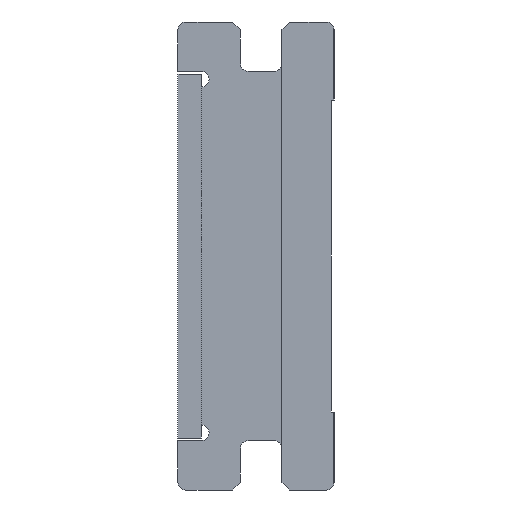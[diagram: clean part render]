
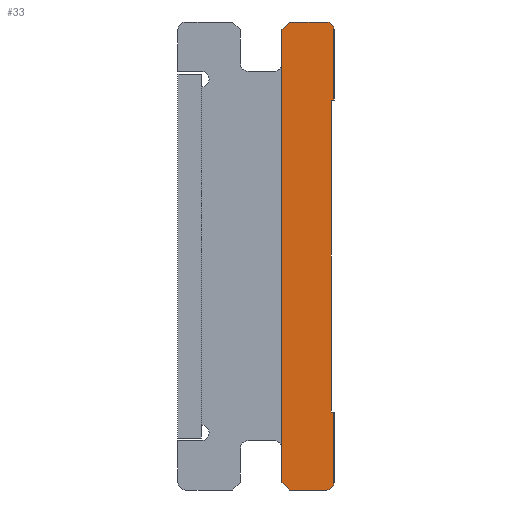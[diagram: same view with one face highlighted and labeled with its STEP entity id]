
A CAD part, left-side view. The second image highlights one B-rep face of the part: STEP entity #33.
In plain terms, the highlighted planar face has unit normal (-1, 0, 0).
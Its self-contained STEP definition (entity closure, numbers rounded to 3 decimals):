
#33 = ADVANCED_FACE ( 'NONE', ( #929 ), #2249, .F. ) ;
#35 = CARTESIAN_POINT ( 'NONE',  ( 0., 0.3, -18. ) ) ;
#52 = EDGE_CURVE ( 'NONE', #1111, #2307, #2441, .T. ) ;
#63 = EDGE_CURVE ( 'NONE', #785, #1111, #175, .T. ) ;
#92 = ORIENTED_EDGE ( 'NONE', *, *, #2073, .F. ) ;
#162 = CARTESIAN_POINT ( 'NONE',  ( 0., 5.1, -15.8 ) ) ;
#175 = LINE ( 'NONE', #915, #248 ) ;
#233 = DIRECTION ( 'NONE',  ( 0., 1., 0. ) ) ;
#248 = VECTOR ( 'NONE', #1582, 1000. ) ;
#256 = DIRECTION ( 'NONE',  ( 1., 0., 0. ) ) ;
#293 = LINE ( 'NONE', #1246, #2266 ) ;
#305 = CARTESIAN_POINT ( 'NONE',  ( 0., 0.1, -3. ) ) ;
#354 = EDGE_CURVE ( 'NONE', #1654, #2053, #1797, .T. ) ;
#388 = ORIENTED_EDGE ( 'NONE', *, *, #990, .F. ) ;
#399 = CARTESIAN_POINT ( 'NONE',  ( 0., 0.3, 0. ) ) ;
#410 = CIRCLE ( 'NONE', #1213, 0.3 ) ;
#455 = VECTOR ( 'NONE', #504, 1000. ) ;
#482 = EDGE_CURVE ( 'NONE', #1069, #2329, #1728, .T. ) ;
#504 = DIRECTION ( 'NONE',  ( 0., -0.707, 0.707 ) ) ;
#594 = EDGE_LOOP ( 'NONE', ( #1116, #1336, #873, #92, #2095, #838, #388, #896, #2287, #1127, #1294, #1909 ) ) ;
#646 = DIRECTION ( 'NONE',  ( 0., 0., -1. ) ) ;
#647 = CARTESIAN_POINT ( 'NONE',  ( 0., 0., -0.3 ) ) ;
#657 = LINE ( 'NONE', #2009, #1527 ) ;
#694 = CARTESIAN_POINT ( 'NONE',  ( 0., 1.7, 0. ) ) ;
#697 = VERTEX_POINT ( 'NONE', #733 ) ;
#720 = CARTESIAN_POINT ( 'NONE',  ( 0., 0.1, -3. ) ) ;
#733 = CARTESIAN_POINT ( 'NONE',  ( 0., 0.3, -18. ) ) ;
#785 = VERTEX_POINT ( 'NONE', #1360 ) ;
#786 = CARTESIAN_POINT ( 'NONE',  ( 0., 1.7, -18. ) ) ;
#793 = DIRECTION ( 'NONE',  ( 0., 0.707, 0.707 ) ) ;
#803 = CIRCLE ( 'NONE', #2224, 0.3 ) ;
#805 = VECTOR ( 'NONE', #233, 1000. ) ;
#827 = EDGE_CURVE ( 'NONE', #2434, #862, #657, .T. ) ;
#838 = ORIENTED_EDGE ( 'NONE', *, *, #354, .F. ) ;
#858 = CARTESIAN_POINT ( 'NONE',  ( 0., 0.3, -17.7 ) ) ;
#862 = VERTEX_POINT ( 'NONE', #1209 ) ;
#870 = DIRECTION ( 'NONE',  ( 0., -1., 0. ) ) ;
#873 = ORIENTED_EDGE ( 'NONE', *, *, #2002, .F. ) ;
#896 = ORIENTED_EDGE ( 'NONE', *, *, #52, .F. ) ;
#899 = DIRECTION ( 'NONE',  ( 1., 0., 0. ) ) ;
#915 = CARTESIAN_POINT ( 'NONE',  ( 0., 0., -3. ) ) ;
#929 = FACE_OUTER_BOUND ( 'NONE', #594, .T. ) ;
#990 = EDGE_CURVE ( 'NONE', #2307, #1654, #1596, .T. ) ;
#1039 = CARTESIAN_POINT ( 'NONE',  ( 0., 1.7, 0. ) ) ;
#1060 = EDGE_CURVE ( 'NONE', #2113, #785, #293, .T. ) ;
#1063 = DIRECTION ( 'NONE',  ( 0., 0., -1. ) ) ;
#1069 = VERTEX_POINT ( 'NONE', #694 ) ;
#1111 = VERTEX_POINT ( 'NONE', #305 ) ;
#1116 = ORIENTED_EDGE ( 'NONE', *, *, #1542, .F. ) ;
#1127 = ORIENTED_EDGE ( 'NONE', *, *, #1060, .F. ) ;
#1169 = LINE ( 'NONE', #35, #805 ) ;
#1200 = VECTOR ( 'NONE', #646, 1000. ) ;
#1209 = CARTESIAN_POINT ( 'NONE',  ( 0., 2., -0.3 ) ) ;
#1213 = AXIS2_PLACEMENT_3D ( 'NONE', #2150, #256, #2326 ) ;
#1246 = CARTESIAN_POINT ( 'NONE',  ( 0., 0., -0.3 ) ) ;
#1269 = DIRECTION ( 'NONE',  ( 1., 0., 0. ) ) ;
#1294 = ORIENTED_EDGE ( 'NONE', *, *, #2365, .F. ) ;
#1336 = ORIENTED_EDGE ( 'NONE', *, *, #827, .F. ) ;
#1360 = CARTESIAN_POINT ( 'NONE',  ( 0., 0., -3. ) ) ;
#1382 = LINE ( 'NONE', #786, #2099 ) ;
#1437 = VECTOR ( 'NONE', #1502, 1000. ) ;
#1445 = DIRECTION ( 'NONE',  ( 0., 0., 1. ) ) ;
#1502 = DIRECTION ( 'NONE',  ( 0., 0., -1. ) ) ;
#1519 = CARTESIAN_POINT ( 'NONE',  ( 0., 0.1, -15. ) ) ;
#1527 = VECTOR ( 'NONE', #1445, 1000. ) ;
#1542 = EDGE_CURVE ( 'NONE', #862, #1069, #1823, .T. ) ;
#1546 = DIRECTION ( 'NONE',  ( 0., -1., 0. ) ) ;
#1551 = CARTESIAN_POINT ( 'NONE',  ( 0., 0., -17.7 ) ) ;
#1556 = CARTESIAN_POINT ( 'NONE',  ( 0., 0.3, 0. ) ) ;
#1560 = VERTEX_POINT ( 'NONE', #2185 ) ;
#1582 = DIRECTION ( 'NONE',  ( 0., 1., 0. ) ) ;
#1596 = LINE ( 'NONE', #2375, #2338 ) ;
#1597 = CARTESIAN_POINT ( 'NONE',  ( 0., 0., -15. ) ) ;
#1622 = EDGE_CURVE ( 'NONE', #2053, #697, #803, .T. ) ;
#1654 = VERTEX_POINT ( 'NONE', #2087 ) ;
#1669 = DIRECTION ( 'NONE',  ( 0., 1., 0. ) ) ;
#1718 = VECTOR ( 'NONE', #1546, 1000. ) ;
#1728 = LINE ( 'NONE', #399, #1718 ) ;
#1741 = CARTESIAN_POINT ( 'NONE',  ( 0., 2., -17.7 ) ) ;
#1757 = AXIS2_PLACEMENT_3D ( 'NONE', #162, #899, #1669 ) ;
#1797 = LINE ( 'NONE', #1597, #1200 ) ;
#1823 = LINE ( 'NONE', #1039, #455 ) ;
#1909 = ORIENTED_EDGE ( 'NONE', *, *, #482, .F. ) ;
#2002 = EDGE_CURVE ( 'NONE', #1560, #2434, #1382, .T. ) ;
#2009 = CARTESIAN_POINT ( 'NONE',  ( 0., 2., -17.7 ) ) ;
#2053 = VERTEX_POINT ( 'NONE', #1551 ) ;
#2073 = EDGE_CURVE ( 'NONE', #697, #1560, #1169, .T. ) ;
#2087 = CARTESIAN_POINT ( 'NONE',  ( 0., 0., -15. ) ) ;
#2095 = ORIENTED_EDGE ( 'NONE', *, *, #1622, .F. ) ;
#2099 = VECTOR ( 'NONE', #793, 1000. ) ;
#2113 = VERTEX_POINT ( 'NONE', #647 ) ;
#2150 = CARTESIAN_POINT ( 'NONE',  ( 0., 0.3, -0.3 ) ) ;
#2185 = CARTESIAN_POINT ( 'NONE',  ( 0., 1.7, -18. ) ) ;
#2224 = AXIS2_PLACEMENT_3D ( 'NONE', #858, #1269, #1063 ) ;
#2249 = PLANE ( 'NONE',  #1757 ) ;
#2266 = VECTOR ( 'NONE', #2419, 1000. ) ;
#2287 = ORIENTED_EDGE ( 'NONE', *, *, #63, .F. ) ;
#2307 = VERTEX_POINT ( 'NONE', #1519 ) ;
#2326 = DIRECTION ( 'NONE',  ( 0., 0., 1. ) ) ;
#2329 = VERTEX_POINT ( 'NONE', #1556 ) ;
#2338 = VECTOR ( 'NONE', #870, 1000. ) ;
#2365 = EDGE_CURVE ( 'NONE', #2329, #2113, #410, .T. ) ;
#2375 = CARTESIAN_POINT ( 'NONE',  ( 0., 0., -15. ) ) ;
#2419 = DIRECTION ( 'NONE',  ( 0., 0., -1. ) ) ;
#2434 = VERTEX_POINT ( 'NONE', #1741 ) ;
#2441 = LINE ( 'NONE', #720, #1437 ) ;
